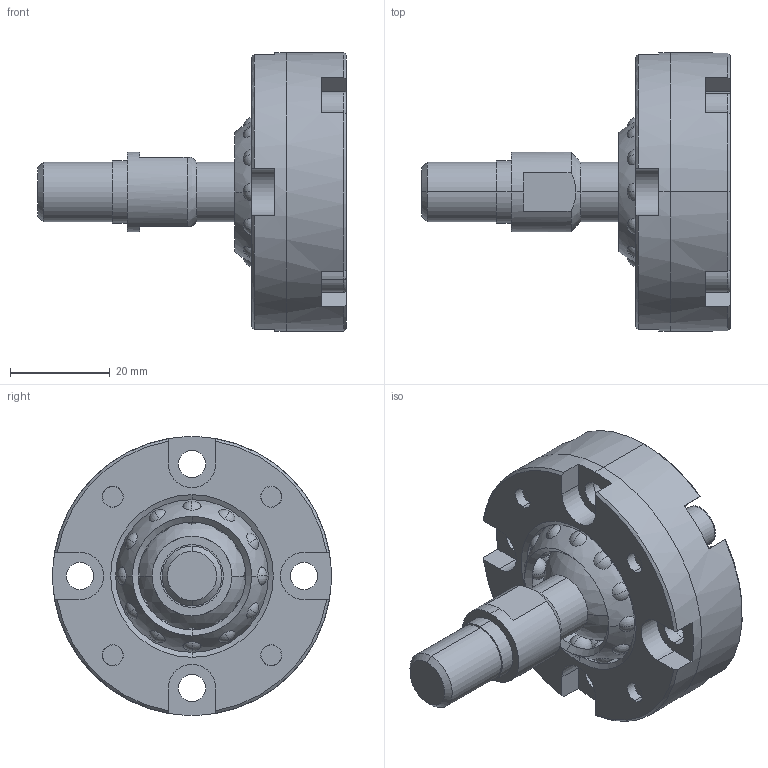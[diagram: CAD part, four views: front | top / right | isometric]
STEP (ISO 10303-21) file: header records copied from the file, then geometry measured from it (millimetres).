
FILE_DESCRIPTION (( 'STEP AP203' ), '1' );
FILE_NAME ('SR JOINT - SRJ016C.STEP', '2010-06-01T19:44:56', ( 'render' ), ( '' ), 'SwSTEP 2.0', 'SolidWorks 2009', '' );
FILE_SCHEMA (( 'CONFIG_CONTROL_DESIGN' ));
Length unit declared in the file: millimetre
Products named in the file (1): SR JOINT - SRJ016C
Bounding box: 62 x 56 x 56 mm (x, y, z)
Volume: 45605.3 mm3; surface area: 24377.6 mm2
Topology: 8 solids, 8 shells, 419 faces, 936 edges, 597 vertices
Faces by surface type: sphere 202, plane 95, cylinder 71, cone 35, torus 16
Entity records: 11883 total; most frequent: DIRECTION 2354, CARTESIAN_POINT 1991, ORIENTED_EDGE 1810, AXIS2_PLACEMENT_3D 1049, EDGE_CURVE 905, CIRCLE 629, VERTEX_POINT 590, EDGE_LOOP 545
